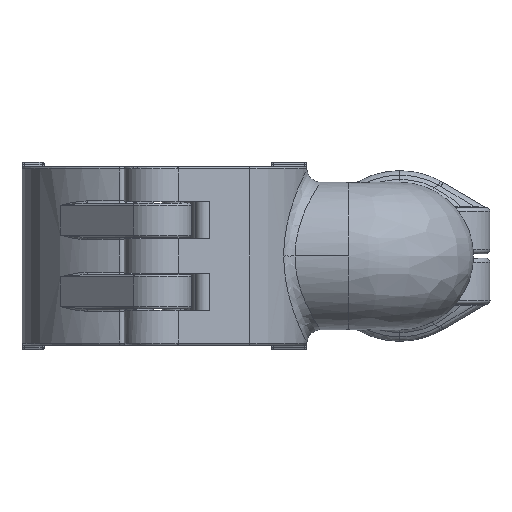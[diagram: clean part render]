
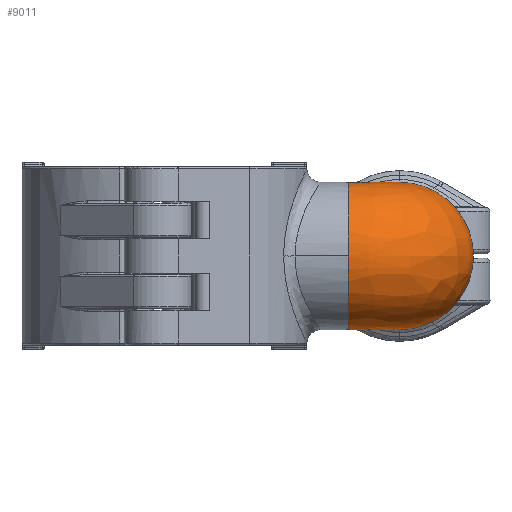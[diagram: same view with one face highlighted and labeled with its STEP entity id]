
A CAD part, left-side view. The second image highlights one B-rep face of the part: STEP entity #9011.
In plain terms, the highlighted free-form (B-spline) face has degree [3, 3] with [4, 7] control points.
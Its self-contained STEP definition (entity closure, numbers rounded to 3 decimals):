
#3755=CARTESIAN_POINT('',(11.671,-46.049,
-14.149));
#3771=CARTESIAN_POINT('',(11.671,-46.049,14.149));
#3772=CARTESIAN_POINT('',(11.388,-45.966,14.096));
#3773=CARTESIAN_POINT('',(10.871,-45.748,14.013));
#3774=CARTESIAN_POINT('',(10.233,-45.324,13.952));
#3775=CARTESIAN_POINT('',(9.656,-44.742,13.955));
#3776=CARTESIAN_POINT('',(9.249,-44.115,14.015));
#3777=CARTESIAN_POINT('',(9.037,-43.609,14.097));
#3778=CARTESIAN_POINT('',(8.956,-43.334,14.149));
#3783=CARTESIAN_POINT('',(0.,-43.334,
0.));
#3784=DIRECTION('',(0.,1.,0.));
#3785=DIRECTION('',(0.,0.,-1.));
#3786=AXIS2_PLACEMENT_3D('',#3783,#3784,#3785);
#3791=CARTESIAN_POINT('',(0.,-43.334,
0.));
#3792=DIRECTION('',(0.,1.,0.));
#3793=DIRECTION('',(-1.,0.,0.));
#3794=AXIS2_PLACEMENT_3D('',#3791,#3792,#3793);
#3799=CARTESIAN_POINT('',(0.,-43.334,
0.));
#3800=DIRECTION('',(0.,1.,0.));
#3801=DIRECTION('',(0.,0.,1.));
#3802=AXIS2_PLACEMENT_3D('',#3799,#3800,#3801);
#3807=CARTESIAN_POINT('',(11.67,-55.005,
0.));
#3808=DIRECTION('',(1.,0.,0.));
#3809=DIRECTION('',(0.,0.535,0.845));
#3810=AXIS2_PLACEMENT_3D('',#3807,#3808,#3809);
#3815=CARTESIAN_POINT('',(11.67,-55.005,
0.));
#3816=DIRECTION('',(1.,0.,0.));
#3817=DIRECTION('',(0.,0.,1.));
#3818=AXIS2_PLACEMENT_3D('',#3815,#3816,#3817);
#3823=CARTESIAN_POINT('',(11.67,-55.005,
0.));
#3824=DIRECTION('',(1.,0.,0.));
#3825=DIRECTION('',(0.,-1.,0.));
#3826=AXIS2_PLACEMENT_3D('',#3823,#3824,#3825);
#3831=CARTESIAN_POINT('',(11.67,-55.005,
0.));
#3832=DIRECTION('',(1.,0.,0.));
#3833=DIRECTION('',(0.,0.,-1.));
#3834=AXIS2_PLACEMENT_3D('',#3831,#3832,#3833);
#3839=CARTESIAN_POINT('',(11.671,-46.049,
-14.149));
#3840=CARTESIAN_POINT('',(11.391,-45.966,
-14.096));
#3841=CARTESIAN_POINT('',(10.876,-45.751,
-14.014));
#3842=CARTESIAN_POINT('',(10.232,-45.324,
-13.952));
#3843=CARTESIAN_POINT('',(9.652,-44.738,
-13.955));
#3844=CARTESIAN_POINT('',(9.245,-44.106,
-14.017));
#3845=CARTESIAN_POINT('',(9.036,-43.605,
-14.098));
#3846=CARTESIAN_POINT('',(8.956,-43.334,
-14.149));
#3851=CARTESIAN_POINT('',(0.,-43.334,
0.));
#3852=DIRECTION('',(0.,1.,0.));
#3853=DIRECTION('',(0.535,0.,-0.845));
#3854=AXIS2_PLACEMENT_3D('',#3851,#3852,#3853);
#3866=CARTESIAN_POINT('',(8.956,-43.334,
-14.149));
#4539=CARTESIAN_POINT('',(11.67,-71.75,
0.));
#4540=VERTEX_POINT('',#4539);
#4541=CARTESIAN_POINT('',(11.67,-55.005,16.745));
#4542=VERTEX_POINT('',#4541);
#4543=CARTESIAN_POINT('',(11.671,-46.049,14.149));
#4544=VERTEX_POINT('',#4543);
#4545=VERTEX_POINT('',#3755);
#4546=CARTESIAN_POINT('',(11.67,-55.005,-16.745));
#4547=VERTEX_POINT('',#4546);
#4549=VERTEX_POINT('',#3866);
#4550=VERTEX_POINT('',#3778);
#4551=CARTESIAN_POINT('',(0.,-43.334,-16.745));
#4552=CARTESIAN_POINT('',(-16.745,-43.335,
0.));
#4553=VERTEX_POINT('',#4551);
#4554=VERTEX_POINT('',#4552);
#4555=CARTESIAN_POINT('',(0.,-43.334,16.745));
#4556=VERTEX_POINT('',#4555);
#8966=CARTESIAN_POINT('',(11.754,-44.578,13.105));
#8967=CARTESIAN_POINT('',(12.599,-57.181,23.152));
#8968=CARTESIAN_POINT('',(13.572,-71.686,16.14));
#8969=CARTESIAN_POINT('',(13.572,-71.686,
0.));
#8970=CARTESIAN_POINT('',(13.572,-71.686,
-16.14));
#8971=CARTESIAN_POINT('',(12.599,-57.181,
-23.152));
#8972=CARTESIAN_POINT('',(11.754,-44.578,
-13.105));
#8973=CARTESIAN_POINT('',(10.946,-44.632,13.105));
#8974=CARTESIAN_POINT('',(3.599,-57.785,23.152));
#8975=CARTESIAN_POINT('',(-4.857,-72.922,
16.14));
#8976=CARTESIAN_POINT('',(-4.857,-72.922,
0.));
#8977=CARTESIAN_POINT('',(-4.857,-72.922,
-16.14));
#8978=CARTESIAN_POINT('',(3.599,-57.785,
-23.152));
#8979=CARTESIAN_POINT('',(10.946,-44.632,
-13.105));
#8980=CARTESIAN_POINT('',(10.373,-44.059,13.105));
#8981=CARTESIAN_POINT('',(-2.78,-51.406,
23.152));
#8982=CARTESIAN_POINT('',(-17.917,-59.862,
16.14));
#8983=CARTESIAN_POINT('',(-17.917,-59.862,
0.));
#8984=CARTESIAN_POINT('',(-17.917,-59.862,
-16.14));
#8985=CARTESIAN_POINT('',(-2.78,-51.406,
-23.152));
#8986=CARTESIAN_POINT('',(10.373,-44.059,
-13.105));
#8987=CARTESIAN_POINT('',(10.427,-43.251,13.105));
#8988=CARTESIAN_POINT('',(-2.176,-42.405,
23.152));
#8989=CARTESIAN_POINT('',(-16.681,-41.433,
16.14));
#8990=CARTESIAN_POINT('',(-16.681,-41.433,
0.));
#8991=CARTESIAN_POINT('',(-16.681,-41.433,
-16.14));
#8992=CARTESIAN_POINT('',(-2.176,-42.405,
-23.152));
#8993=CARTESIAN_POINT('',(10.427,-43.251,
-13.105));
#8994=(BOUNDED_SURFACE()B_SPLINE_SURFACE(3,3,((#8966,#8967,#8968,#8969,#8970,
#8971,#8972),(#8973,#8974,#8975,#8976,#8977,#8978,#8979),(#8980,#8981,#8982,
#8983,#8984,#8985,#8986),(#8987,#8988,#8989,#8990,#8991,#8992,#8993)),
.UNSPECIFIED.,.F.,.F.,.F.)B_SPLINE_SURFACE_WITH_KNOTS((4,4),(4,3,4),(0.,1.),
(0.,1.,2.),.UNSPECIFIED.)GEOMETRIC_REPRESENTATION_ITEM()RATIONAL_B_SPLINE_SURFACE(((1.682,1.048,1.048,1.682,
1.048,1.048,1.682),(1.298,
0.809,0.809,1.298,0.809,
0.809,1.298),(1.298,0.809,
0.809,1.298,0.809,0.809,
1.298),(1.682,1.048,1.048,
1.682,1.048,1.048,1.682)))REPRESENTATION_ITEM('')SURFACE());
#8996=ORIENTED_EDGE('',*,*,#8995,.T.);
#8998=ORIENTED_EDGE('',*,*,#8997,.T.);
#9000=ORIENTED_EDGE('',*,*,#8999,.T.);
#9001=ORIENTED_EDGE('',*,*,#8959,.F.);
#9002=ORIENTED_EDGE('',*,*,#8808,.T.);
#9003=ORIENTED_EDGE('',*,*,#8806,.T.);
#9004=ORIENTED_EDGE('',*,*,#8825,.T.);
#9005=ORIENTED_EDGE('',*,*,#8823,.T.);
#9006=ORIENTED_EDGE('',*,*,#8894,.T.);
#9008=ORIENTED_EDGE('',*,*,#9007,.T.);
#9009=EDGE_LOOP('',(#8996,#8998,#9000,#9001,#9002,#9003,#9004,#9005,#9006,
#9008));
#9010=FACE_OUTER_BOUND('',#9009,.F.);
#3779=B_SPLINE_CURVE_WITH_KNOTS('',3,(#3771,#3772,#3773,#3774,#3775,#3776,#3777,
#3778),.UNSPECIFIED.,.F.,.F.,(4,1,1,1,1,4),(0.,0.2,0.4,0.6,0.8,1.),
.UNSPECIFIED.);
#3787=CIRCLE('',#3786,16.745);
#3795=CIRCLE('',#3794,16.745);
#3803=CIRCLE('',#3802,16.745);
#3811=CIRCLE('',#3810,16.745);
#3819=CIRCLE('',#3818,16.745);
#3827=CIRCLE('',#3826,16.745);
#3835=CIRCLE('',#3834,16.745);
#3847=B_SPLINE_CURVE_WITH_KNOTS('',3,(#3839,#3840,#3841,#3842,#3843,#3844,#3845,
#3846),.UNSPECIFIED.,.F.,.F.,(4,1,1,1,1,4),(0.,0.2,0.4,0.6,0.8,1.),
.UNSPECIFIED.);
#3855=CIRCLE('',#3854,16.745);
#8806=EDGE_CURVE('',#4542,#4540,#3819,.T.);
#8808=EDGE_CURVE('',#4544,#4542,#3811,.T.);
#8823=EDGE_CURVE('',#4547,#4545,#3835,.T.);
#8825=EDGE_CURVE('',#4540,#4547,#3827,.T.);
#8894=EDGE_CURVE('',#4545,#4549,#3847,.T.);
#8959=EDGE_CURVE('',#4544,#4550,#3779,.T.);
#8995=EDGE_CURVE('',#4553,#4554,#3787,.T.);
#8997=EDGE_CURVE('',#4554,#4556,#3795,.T.);
#8999=EDGE_CURVE('',#4556,#4550,#3803,.T.);
#9007=EDGE_CURVE('',#4549,#4553,#3855,.T.);
#9011=ADVANCED_FACE('',(#9010),#8994,.T.);
